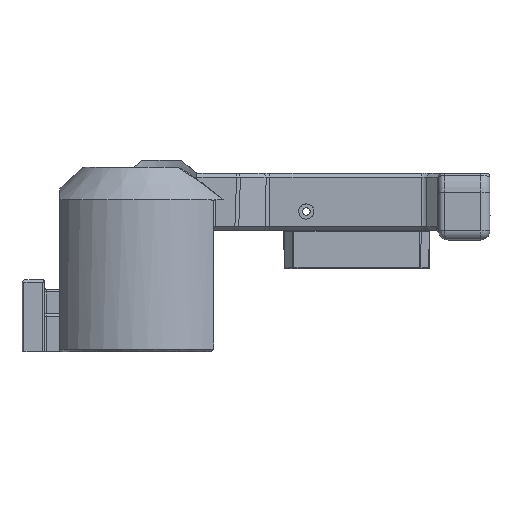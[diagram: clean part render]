
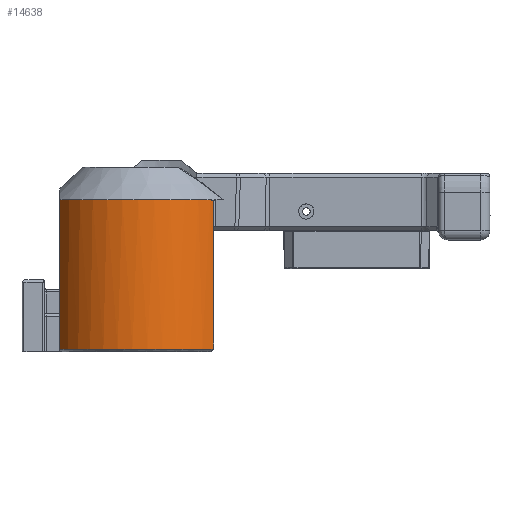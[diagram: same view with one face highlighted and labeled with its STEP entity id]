
A CAD part, left-side view. The second image highlights one B-rep face of the part: STEP entity #14638.
In plain terms, the highlighted cylindrical face has radius 49 mm (diameter 98 mm), a partial arc.
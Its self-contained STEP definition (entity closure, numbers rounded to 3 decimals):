
#994=CARTESIAN_POINT('',(0.,0.,-14.));
#995=DIRECTION('',(0.,0.,-1.));
#996=DIRECTION('',(-0.679,-0.734,0.));
#997=AXIS2_PLACEMENT_3D('',#994,#995,#996);
#1002=CARTESIAN_POINT('',(-23.495,43.,-14.));
#1235=CARTESIAN_POINT('',(-23.495,43.,-92.5));
#1347=CARTESIAN_POINT('',(-31.545,-37.495,-15.));
#1348=CARTESIAN_POINT('',(-31.621,-37.432,
-14.932));
#1349=CARTESIAN_POINT('',(-31.766,-37.309,
-14.8));
#1350=CARTESIAN_POINT('',(-31.971,-37.133,
-14.622));
#1351=CARTESIAN_POINT('',(-32.154,-36.975,
-14.474));
#1352=CARTESIAN_POINT('',(-32.323,-36.827,
-14.35));
#1353=CARTESIAN_POINT('',(-32.474,-36.694,
-14.253));
#1354=CARTESIAN_POINT('',(-32.61,-36.573,
-14.177));
#1355=CARTESIAN_POINT('',(-32.736,-36.46,
-14.117));
#1356=CARTESIAN_POINT('',(-32.853,-36.355,
-14.071));
#1357=CARTESIAN_POINT('',(-32.964,-36.255,
-14.038));
#1358=CARTESIAN_POINT('',(-33.068,-36.16,
-14.016));
#1359=CARTESIAN_POINT('',(-33.166,-36.07,
-14.003));
#1360=CARTESIAN_POINT('',(-33.228,-36.013,-14.));
#1361=CARTESIAN_POINT('',(-33.258,-35.985,-14.));
#1366=DIRECTION('',(0.,0.,1.));
#1367=VECTOR('',#1366,77.5);
#1368=CARTESIAN_POINT('',(-31.545,-37.495,
-92.5));
#1369=LINE('33802',#1368,#1367);
#1373=CARTESIAN_POINT('',(0.,0.,-92.5));
#1374=DIRECTION('',(0.,0.,-1.));
#1375=DIRECTION('',(-0.644,-0.765,0.));
#1376=AXIS2_PLACEMENT_3D('',#1373,#1374,#1375);
#1381=DIRECTION('',(0.,0.,-1.));
#1382=VECTOR('',#1381,78.5);
#1383=CARTESIAN_POINT('',(-23.495,43.,-14.));
#1384=LINE('31541',#1383,#1382);
#13429=VERTEX_POINT('',#1002);
#13552=VERTEX_POINT('',#1235);
#13553=CARTESIAN_POINT('',(-31.545,-37.495,-92.5));
#13554=VERTEX_POINT('',#13553);
#13750=VERTEX_POINT('',#1347);
#13751=VERTEX_POINT('',#1361);
#14623=CARTESIAN_POINT('',(0.,0.,-94.));
#14624=DIRECTION('',(0.,0.,-1.));
#14625=DIRECTION('',(-1.,0.,0.));
#14626=AXIS2_PLACEMENT_3D('',#14623,#14624,#14625);
#14627=CYLINDRICAL_SURFACE('29498',#14626,49.);
#14629=ORIENTED_EDGE('33709',*,*,#14628,.F.);
#14631=ORIENTED_EDGE('33802',*,*,#14630,.F.);
#14633=ORIENTED_EDGE('31527',*,*,#14632,.T.);
#14634=ORIENTED_EDGE('31541',*,*,#14574,.F.);
#14635=ORIENTED_EDGE('33796',*,*,#14415,.F.);
#14636=EDGE_LOOP('29498',(#14629,#14631,#14633,#14634,#14635));
#14637=FACE_OUTER_BOUND('29498',#14636,.F.);
#998=CIRCLE('33796',#997,49.);
#1362=B_SPLINE_CURVE_WITH_KNOTS('33709',3,(#1347,#1348,#1349,#1350,#1351,#1352,
#1353,#1354,#1355,#1356,#1357,#1358,#1359,#1360,#1361),.UNSPECIFIED.,.F.,.F.,(4,
1,1,1,1,1,1,1,1,1,1,1,4),(0.,0.083,0.167,0.25,
0.333,0.417,0.5,0.583,0.667,
0.75,0.833,0.917,1.),.UNSPECIFIED.);
#1377=CIRCLE('31527',#1376,49.);
#14415=EDGE_CURVE('33796',#13751,#13429,#998,.T.);
#14574=EDGE_CURVE('31541',#13429,#13552,#1384,.T.);
#14628=EDGE_CURVE('33709',#13750,#13751,#1362,.T.);
#14630=EDGE_CURVE('33802',#13554,#13750,#1369,.T.);
#14632=EDGE_CURVE('31527',#13554,#13552,#1377,.T.);
#14638=ADVANCED_FACE('29498',(#14637),#14627,.T.);
